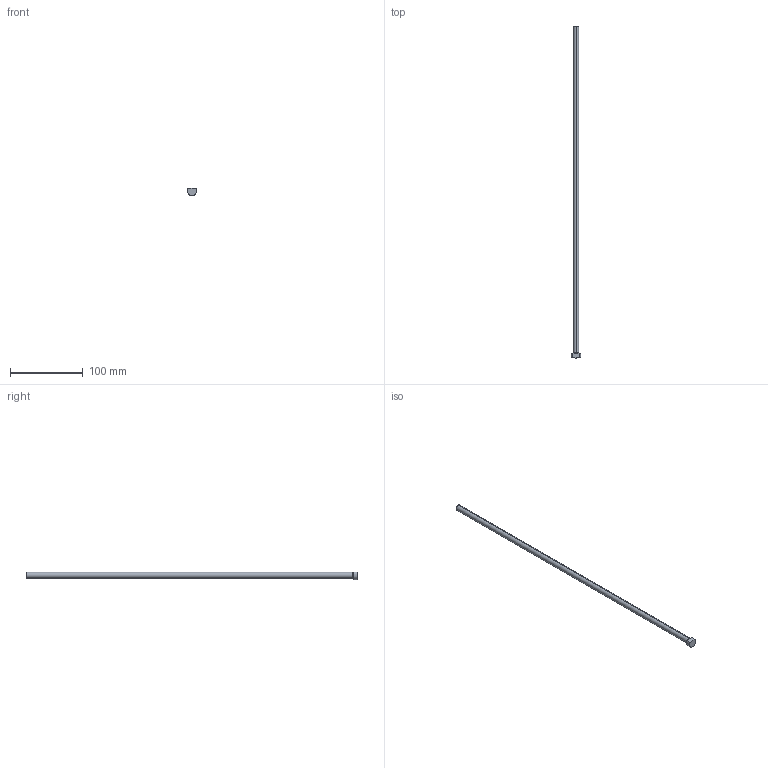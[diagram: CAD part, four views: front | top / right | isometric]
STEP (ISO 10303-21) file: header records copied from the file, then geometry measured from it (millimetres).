
FILE_DESCRIPTION (( 'STEP AP214' ), '1' );
FILE_NAME ('EPM312L18-K.step', '2024-02-28T21:16:34', ( '' ), ( '' ), 'SwSTEP 2.0', 'SolidWorks 2020', '' );
FILE_SCHEMA (( 'AUTOMOTIVE_DESIGN' ));
Length unit declared in the file: inch
Products named in the file (1): EPM312L18-K
Bounding box: 12.7 x 457.2 x 10.32 mm (x, y, z)
Volume: 23010.6 mm3; surface area: 11691.4 mm2
Topology: 1 solids, 1 shells, 12 faces, 27 edges, 17 vertices
Faces by surface type: plane 4, cylinder 3, cone 3, torus 2
Entity records: 394 total; most frequent: CARTESIAN_POINT 83, DIRECTION 60, ORIENTED_EDGE 54, EDGE_CURVE 27, AXIS2_PLACEMENT_3D 26, VERTEX_POINT 17, CIRCLE 13, EDGE_LOOP 12
